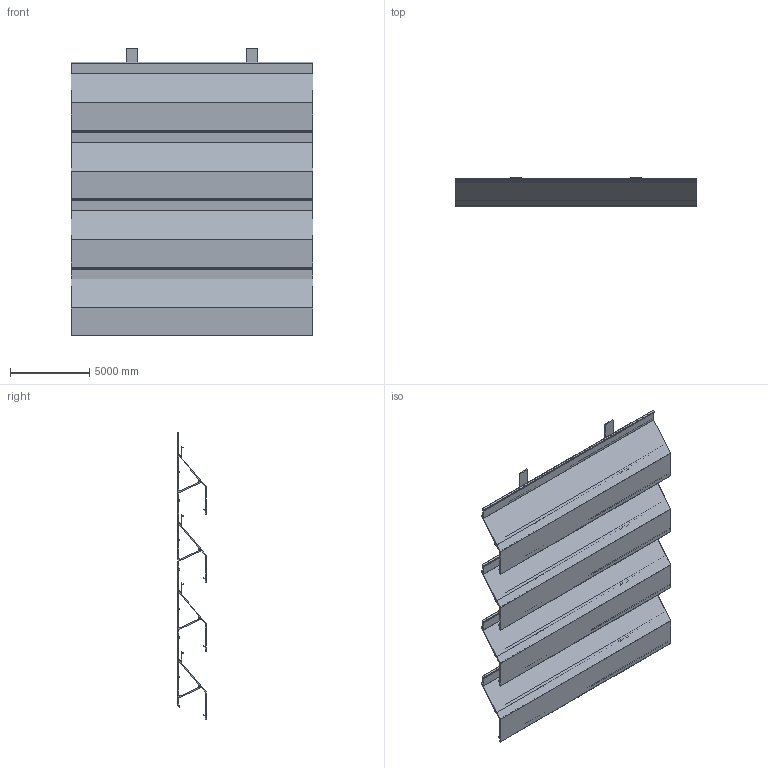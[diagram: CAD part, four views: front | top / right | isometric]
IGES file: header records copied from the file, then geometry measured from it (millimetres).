
Global section: file name: 3D_L_170DAC; native system: AutoCAD 2023 - English; preprocessor: Autodesk Translation Framework DWG producer (atf_dwg_producer); organization: unknown; date: 20260202.112524; units: inch
Bounding box: 15240 x 1778 x 18140.91 mm (x, y, z)
Volume: 20544861888.3 mm3; surface area: 729199666.1 mm2
Topology: 12 solids, 12 shells, 572 faces, 1644 edges, 1096 vertices
Faces by surface type: bspline 572
